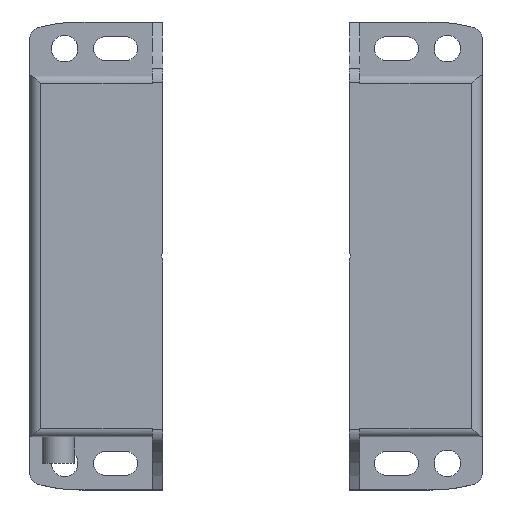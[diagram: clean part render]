
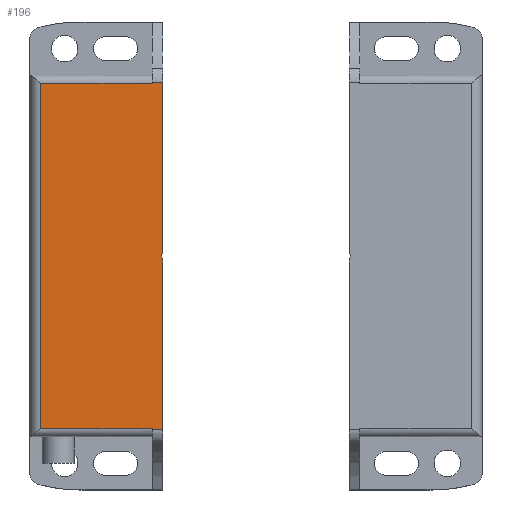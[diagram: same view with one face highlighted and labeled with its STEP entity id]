
A CAD part, top view. The second image highlights one B-rep face of the part: STEP entity #196.
In plain terms, the highlighted planar face has unit normal (0, 0, 1) as drawn and (0, 1, 0) by its records, which use the part's own axes.
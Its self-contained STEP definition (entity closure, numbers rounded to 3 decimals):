
#196 = ADVANCED_FACE( '', ( #308 ), #309, .F. );
#308 = FACE_OUTER_BOUND( '', #475, .T. );
#309 = PLANE( '', #476 );
#475 = EDGE_LOOP( '', ( #808, #809, #810, #811, #812, #813, #814, #815, #816, #817 ) );
#476 = AXIS2_PLACEMENT_3D( '', #818, #819, #820 );
#808 = ORIENTED_EDGE( '', *, *, #1271, .F. );
#809 = ORIENTED_EDGE( '', *, *, #1211, .T. );
#810 = ORIENTED_EDGE( '', *, *, #1272, .F. );
#811 = ORIENTED_EDGE( '', *, *, #1273, .F. );
#812 = ORIENTED_EDGE( '', *, *, #1269, .F. );
#813 = ORIENTED_EDGE( '', *, *, #1188, .T. );
#814 = ORIENTED_EDGE( '', *, *, #1190, .T. );
#815 = ORIENTED_EDGE( '', *, *, #1274, .F. );
#816 = ORIENTED_EDGE( '', *, *, #1275, .T. );
#817 = ORIENTED_EDGE( '', *, *, #1213, .T. );
#818 = CARTESIAN_POINT( '', ( 32.5, 13.1, 12.5 ) );
#819 = DIRECTION( '', ( 0., -1., 0. ) );
#820 = DIRECTION( '', ( 0., 0., -1. ) );
#1188 = EDGE_CURVE( '', #1389, #1387, #1390, .F. );
#1190 = EDGE_CURVE( '', #1387, #1392, #1393, .T. );
#1211 = EDGE_CURVE( '', #1421, #1429, #1431, .T. );
#1213 = EDGE_CURVE( '', #1435, #1432, #1436, .T. );
#1269 = EDGE_CURVE( '', #1389, #1527, #1528, .T. );
#1271 = EDGE_CURVE( '', #1421, #1432, #1530, .F. );
#1272 = EDGE_CURVE( '', #1531, #1429, #1532, .T. );
#1273 = EDGE_CURVE( '', #1527, #1531, #1533, .T. );
#1274 = EDGE_CURVE( '', #1534, #1392, #1535, .T. );
#1275 = EDGE_CURVE( '', #1534, #1435, #1536, .T. );
#1387 = VERTEX_POINT( '', #1718 );
#1389 = VERTEX_POINT( '', #1737 );
#1390 = LINE( '', #1738, #1739 );
#1392 = VERTEX_POINT( '', #1758 );
#1393 = LINE( '', #1759, #1760 );
#1421 = VERTEX_POINT( '', #1801 );
#1429 = VERTEX_POINT( '', #1812 );
#1431 = LINE( '', #1814, #1815 );
#1432 = VERTEX_POINT( '', #1816 );
#1435 = VERTEX_POINT( '', #1820 );
#1436 = LINE( '', #1821, #1822 );
#1527 = VERTEX_POINT( '', #1945 );
#1528 = LINE( '', #1946, #1947 );
#1530 = CIRCLE( '', #1949, 5. );
#1531 = VERTEX_POINT( '', #1950 );
#1532 = LINE( '', #1951, #1952 );
#1533 = LINE( '', #1953, #1954 );
#1534 = VERTEX_POINT( '', #1955 );
#1535 = LINE( '', #1956, #1957 );
#1536 = LINE( '', #1958, #1959 );
#1718 = CARTESIAN_POINT( '', ( 32.5, 13.1, 10.5 ) );
#1737 = CARTESIAN_POINT( '', ( -32.5, 13.1, 10.5 ) );
#1738 = CARTESIAN_POINT( '', ( 39., 13.1, 10.5 ) );
#1739 = VECTOR( '', #2237, 1000. );
#1758 = CARTESIAN_POINT( '', ( 32.5, 13.1, -10.5 ) );
#1759 = CARTESIAN_POINT( '', ( 32.5, 13.1, 12.5 ) );
#1760 = VECTOR( '', #2238, 1000. );
#1801 = CARTESIAN_POINT( '', ( -1.4, 13.1, -12.5 ) );
#1812 = CARTESIAN_POINT( '', ( -32.644, 13.1, -12.5 ) );
#1814 = CARTESIAN_POINT( '', ( 32.5, 13.1, -12.5 ) );
#1815 = VECTOR( '', #2267, 1000. );
#1816 = CARTESIAN_POINT( '', ( 1.4, 13.1, -12.5 ) );
#1820 = CARTESIAN_POINT( '', ( 32.644, 13.1, -12.5 ) );
#1821 = CARTESIAN_POINT( '', ( 32.5, 13.1, -12.5 ) );
#1822 = VECTOR( '', #2269, 1000. );
#1945 = CARTESIAN_POINT( '', ( -32.5, 13.1, -10.5 ) );
#1946 = CARTESIAN_POINT( '', ( -32.5, 13.1, 12.5 ) );
#1947 = VECTOR( '', #2371, 1000. );
#1949 = AXIS2_PLACEMENT_3D( '', #2375, #2376, #2377 );
#1950 = CARTESIAN_POINT( '', ( -32.644, 13.1, -10.5 ) );
#1951 = CARTESIAN_POINT( '', ( -32.644, 13.1, -10.5 ) );
#1952 = VECTOR( '', #2378, 1000. );
#1953 = CARTESIAN_POINT( '', ( 32.644, 13.1, -10.5 ) );
#1954 = VECTOR( '', #2379, 1000. );
#1955 = CARTESIAN_POINT( '', ( 32.644, 13.1, -10.5 ) );
#1956 = CARTESIAN_POINT( '', ( 32.644, 13.1, -10.5 ) );
#1957 = VECTOR( '', #2380, 1000. );
#1958 = CARTESIAN_POINT( '', ( 32.644, 13.1, -10.5 ) );
#1959 = VECTOR( '', #2381, 1000. );
#2237 = DIRECTION( '', ( -1., 0., 0. ) );
#2238 = DIRECTION( '', ( 0., 0., -1. ) );
#2267 = DIRECTION( '', ( -1., 0., 0. ) );
#2269 = DIRECTION( '', ( -1., 0., 0. ) );
#2371 = DIRECTION( '', ( 0., 0., -1. ) );
#2375 = CARTESIAN_POINT( '', ( 0., 13.1, -17.3 ) );
#2376 = DIRECTION( '', ( 0., -1., 0. ) );
#2377 = DIRECTION( '', ( 0., 0., -1. ) );
#2378 = DIRECTION( '', ( 0., 0., -1. ) );
#2379 = DIRECTION( '', ( -1., 0., 0. ) );
#2380 = DIRECTION( '', ( -1., 0., 0. ) );
#2381 = DIRECTION( '', ( 0., 0., -1. ) );
